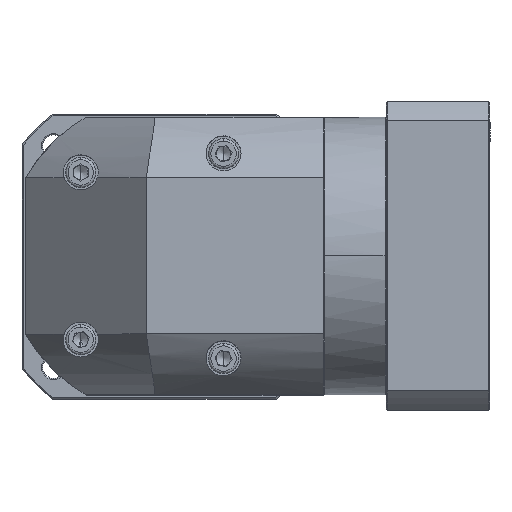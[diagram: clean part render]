
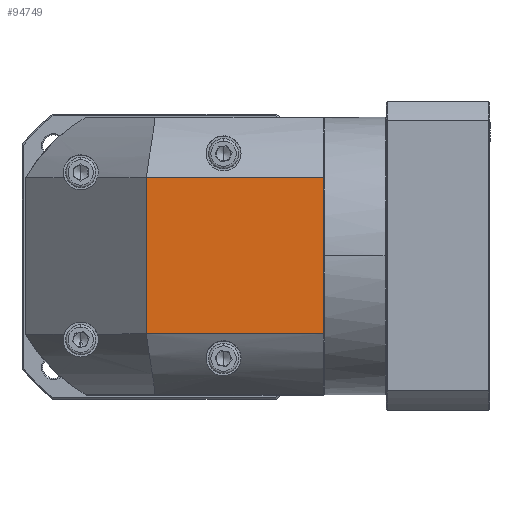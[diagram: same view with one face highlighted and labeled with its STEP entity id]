
A CAD part, top view. The second image highlights one B-rep face of the part: STEP entity #94749.
In plain terms, the highlighted planar face has unit normal (0, 0, 1).
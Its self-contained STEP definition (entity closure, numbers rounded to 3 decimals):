
#179 = DIRECTION ( 'NONE',  ( -1., 0., 0. ) ) ;
#2932 = LINE ( 'NONE', #103451, #14365 ) ;
#4429 = ORIENTED_EDGE ( 'NONE', *, *, #34166, .F. ) ;
#8634 = VERTEX_POINT ( 'NONE', #30376 ) ;
#9862 = EDGE_CURVE ( 'NONE', #8634, #90514, #65080, .T. ) ;
#13412 = DIRECTION ( 'NONE',  ( 0., -1., 0. ) ) ;
#14365 = VECTOR ( 'NONE', #179, 1000. ) ;
#16734 = EDGE_CURVE ( 'NONE', #36488, #62959, #2932, .T. ) ;
#16990 = CARTESIAN_POINT ( 'NONE',  ( 107.693, 100.184, 51.178 ) ) ;
#17906 = DIRECTION ( 'NONE',  ( 0., -1., 0. ) ) ;
#27219 = CARTESIAN_POINT ( 'NONE',  ( 107.693, 75.084, 51.178 ) ) ;
#28300 = CARTESIAN_POINT ( 'NONE',  ( 34.293, 10.284, 51.178 ) ) ;
#30376 = CARTESIAN_POINT ( 'NONE',  ( 34.293, 75.084, 51.178 ) ) ;
#32941 = PLANE ( 'NONE',  #85431 ) ;
#34166 = EDGE_CURVE ( 'NONE', #90514, #36488, #131014, .T. ) ;
#34240 = VECTOR ( 'NONE', #132730, 1000. ) ;
#36488 = VERTEX_POINT ( 'NONE', #65607 ) ;
#36653 = FACE_OUTER_BOUND ( 'NONE', #53964, .T. ) ;
#43402 = DIRECTION ( 'NONE',  ( 0., 1., 0. ) ) ;
#53964 = EDGE_LOOP ( 'NONE', ( #122324, #100716, #54354, #4429 ) ) ;
#54354 = ORIENTED_EDGE ( 'NONE', *, *, #16734, .F. ) ;
#59256 = EDGE_CURVE ( 'NONE', #62959, #8634, #62143, .T. ) ;
#62143 = LINE ( 'NONE', #74706, #114028 ) ;
#62959 = VERTEX_POINT ( 'NONE', #28300 ) ;
#65080 = LINE ( 'NONE', #132283, #34240 ) ;
#65607 = CARTESIAN_POINT ( 'NONE',  ( 107.693, 10.284, 51.178 ) ) ;
#74706 = CARTESIAN_POINT ( 'NONE',  ( 34.293, 100.184, 51.178 ) ) ;
#85431 = AXIS2_PLACEMENT_3D ( 'NONE', #117196, #95896, #13412 ) ;
#90514 = VERTEX_POINT ( 'NONE', #27219 ) ;
#94749 = ADVANCED_FACE ( 'NONE', ( #36653 ), #32941, .F. ) ;
#95896 = DIRECTION ( 'NONE',  ( 0., 0., -1. ) ) ;
#100716 = ORIENTED_EDGE ( 'NONE', *, *, #59256, .F. ) ;
#103451 = CARTESIAN_POINT ( 'NONE',  ( -15.707, 10.284, 51.178 ) ) ;
#109895 = VECTOR ( 'NONE', #17906, 1000. ) ;
#114028 = VECTOR ( 'NONE', #43402, 1000. ) ;
#117196 = CARTESIAN_POINT ( 'NONE',  ( 41.793, 42.684, 51.178 ) ) ;
#122324 = ORIENTED_EDGE ( 'NONE', *, *, #9862, .F. ) ;
#131014 = LINE ( 'NONE', #16990, #109895 ) ;
#132283 = CARTESIAN_POINT ( 'NONE',  ( -15.707, 75.084, 51.178 ) ) ;
#132730 = DIRECTION ( 'NONE',  ( 1., 0., 0. ) ) ;
